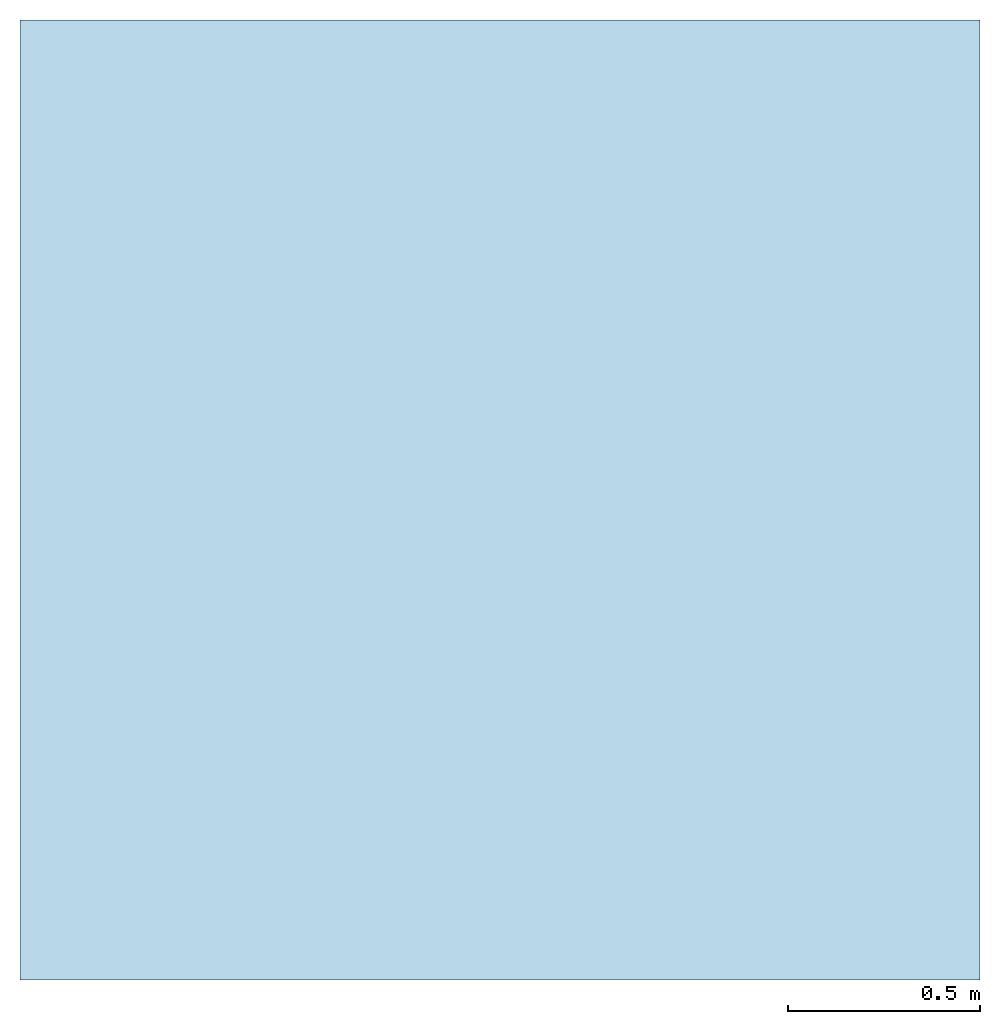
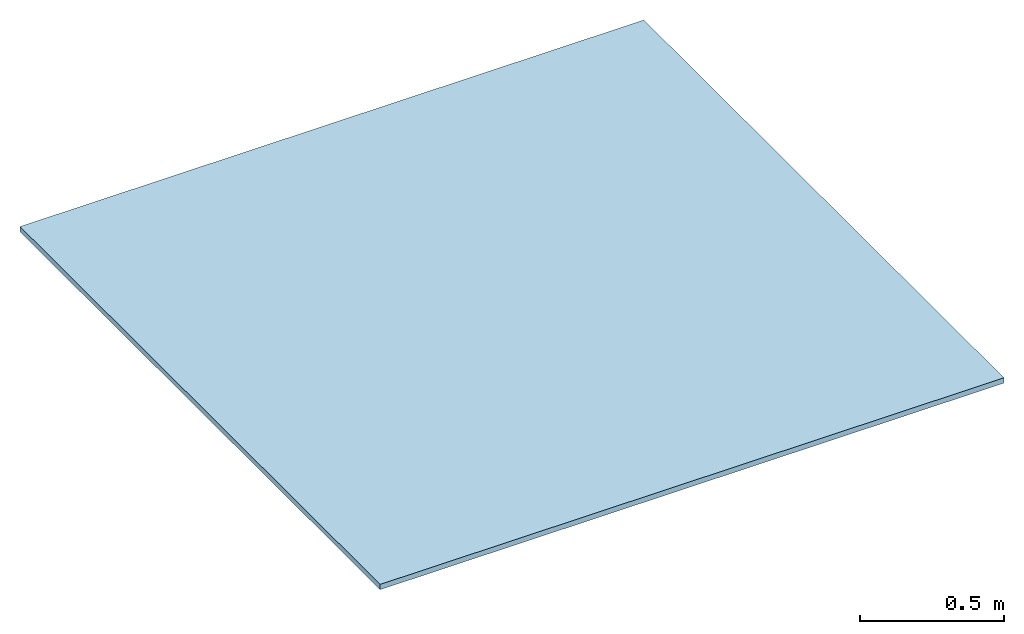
# Not in any storey: 1 slab.
"""IFC2X3 building model written with IfcOpenShell, lengths in millimetres."""

from ifc_helpers import new_model, si_unit, frame, frame_2d, origin, origin_with_axes, origin_2d, place, context, project, spatial, rectangle, extrude, material, layer, layer_set, layer_usage, type_object, element, save


model = new_model("IFC2X3")

# Units and contexts
model_context = context("Model", 3, precision=1e-05, world=origin())
plan_context = context("Plan", 2, precision=1e-05, world=origin_2d())
ifc_project = project(units=[si_unit("LENGTHUNIT", "METRE", prefix="MILLI"), si_unit("AREAUNIT", "SQUARE_METRE"), si_unit("VOLUMEUNIT", "CUBIC_METRE"), si_unit("SOLIDANGLEUNIT", "STERADIAN"), si_unit("PLANEANGLEUNIT", "RADIAN"), si_unit("MASSUNIT", "GRAM"), si_unit("TIMEUNIT", "SECOND"), si_unit("THERMODYNAMICTEMPERATUREUNIT", "DEGREE_CELSIUS"), si_unit("LUMINOUSINTENSITYUNIT", "LUMEN")], contexts=[model_context, plan_context])

# Site, building
site_placement = place(None, frame((0.0, 0.0, 0.0), z_axis=(0.0, 1.0, 0.0), x_axis=(0.0, 0.0, 1.0)))
site = spatial("IfcSite", under=ifc_project, at=site_placement, Name="Default site", CompositionType="ELEMENT")
building_placement = place(site_placement, frame((0.0, 0.0, 0.0), z_axis=(0.0, 1.0, 0.0), x_axis=(0.0, 0.0, 1.0)))
building = spatial("IfcBuilding", under=site, at=building_placement, Name="Default building", CompositionType="ELEMENT")

# Slab
ifc_material = material(Name="NBS_CompositePrime_HardwoodDeckBoards_HDDeckDualSystem")
ifc_layer = layer(ifc_material, 22.5, ventilated=False)
ifc_layer_set = layer_set([ifc_layer], Name="NBS_CompositePrime_HardwoodDeckBoards_HDDeckDualSystem")
ifc_layer_usage = layer_usage(ifc_layer_set, "AXIS3", "NEGATIVE", 0.0)
slab_type = type_object("IfcSlabType", Name="NBS_CompositePrime_HardwoodDeckBoards_HDDeckDualSystem", PredefinedType="FLOOR", material=ifc_layer_set)
slab_placement = place(None, origin())
element("IfcSlab", 1, at=slab_placement, inside=building, type_object=slab_type, material=ifc_layer_usage, Name="NBS_CompositePrime_HardwoodDeckBoards_HDDeckDualSystem", PredefinedType="FLOOR", context=model_context, shape_type="SweptSolid", body=[
    extrude(rectangle(XDim=2500.0, YDim=2500.0, at=frame_2d((1250.0, 1250.0))), origin_with_axes(), (0.0, 0.0, 1.0), 22.5),
])

save(model, "model.ifc")
